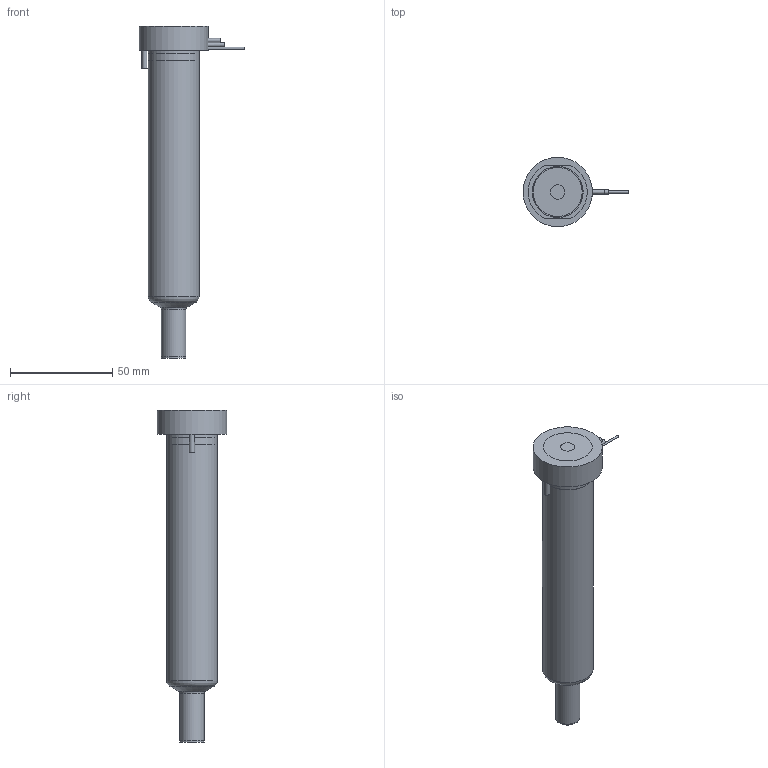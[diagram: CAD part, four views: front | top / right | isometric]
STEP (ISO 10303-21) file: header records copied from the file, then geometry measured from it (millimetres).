
FILE_DESCRIPTION(/* description */ (''),/* implementation_level */ '2;1');
FILE_NAME(/* name */ 'MXYCN16130P4U_250C_a',/* time_stamp */ '2016-02-29T11:09:49+13:00',/* author */ (''),/* organization */ (''),/* preprocessor_version */ 'ST-DEVELOPER v9',/* originating_system */ 'UGS - NX 4.0',/* authorisation */ '');
FILE_SCHEMA (('CONFIG_CONTROL_DESIGN'));
Length unit declared in the file: millimetre
Products named in the file (1): mattB1369y4r
Bounding box: 51.95 x 34 x 162.72 mm (x, y, z)
Volume: 125531.2 mm3; surface area: 26321.6 mm2
Topology: 2 solids, 2 shells, 71 faces, 156 edges, 102 vertices
Faces by surface type: plane 31, cylinder 26, torus 7, cone 5, bspline 1, sphere 1
Full cylindrical faces by diameter (mm): 1 x2, 1.5 x1, 2 x2, 2.5 x1, 5 x1, 7 x1, 11.61 x1, 11.995 x2, 14.8 x1, 20.8 x1, 24.9 x1, 25 x2, 34 x1
Entity records: 2121 total; most frequent: CARTESIAN_POINT 614, DIRECTION 314, ORIENTED_EDGE 234, AXIS2_PLACEMENT_3D 141, EDGE_CURVE 117, EDGE_LOOP 114, VERTEX_POINT 91, ADVANCED_FACE 71
